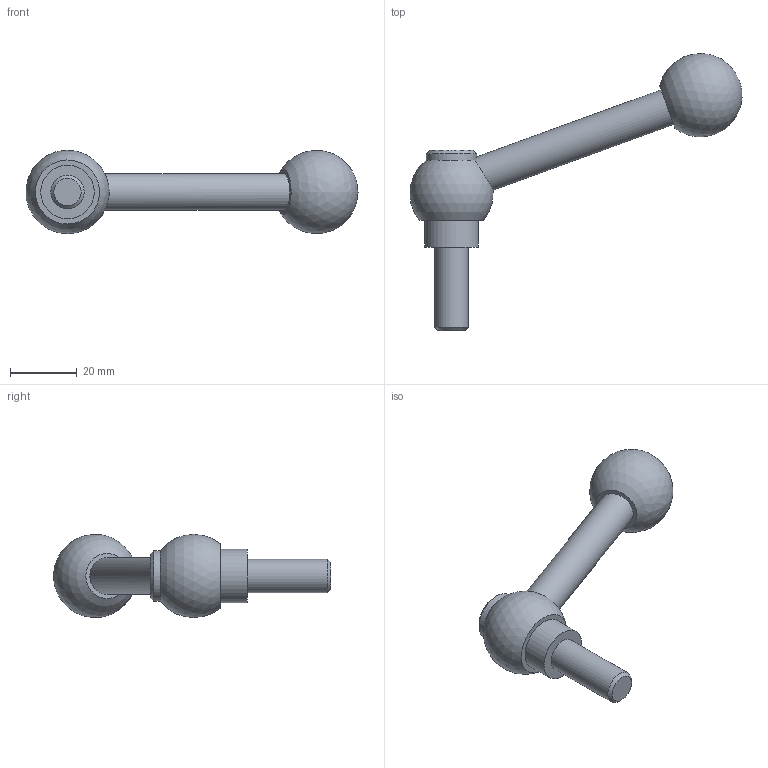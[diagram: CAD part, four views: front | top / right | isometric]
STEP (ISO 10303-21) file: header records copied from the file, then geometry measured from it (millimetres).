
FILE_DESCRIPTION( ( 'STEP AP203' ), '1' );
FILE_NAME( 'C:/Temp/Ganter_Step_05_03_2020/data/2_1/gn_6337_3/gn_6337_3_ms/gn_6337_3_ms_n/Adjustable clamping lever with bolt GN 6337.3-25-M10-25-N.stp', '2020-03-05T11:41:18', ( 'License CC BY-ND 4.0' ), ( 'CADENAS' ), ' ', 'PARTsolutions', ' ' );
FILE_SCHEMA( ( 'CONFIG_CONTROL_DESIGN' ) );
Length unit declared in the file: millimetre
Products named in the file (1): _Adjustable clamping lever with bolt GN 6337.3-25-M10-25-N
Bounding box: 99.41 x 82.98 x 25 mm (x, y, z)
Volume: 24857.8 mm3; surface area: 6938.5 mm2
Topology: 1 solids, 1 shells, 13 faces, 27 edges, 18 vertices
Faces by surface type: plane 5, cylinder 4, cone 2, sphere 2
Full cylindrical faces by diameter (mm): 10 x1, 11 x1, 15 x1, 16 x1
Entity records: 374 total; most frequent: CARTESIAN_POINT 112, DIRECTION 50, ORIENTED_EDGE 26, AXIS2_PLACEMENT_3D 25, EDGE_LOOP 23, FACE_OUTER_BOUND 18, ADVANCED_FACE 13, VERTEX_POINT 13
